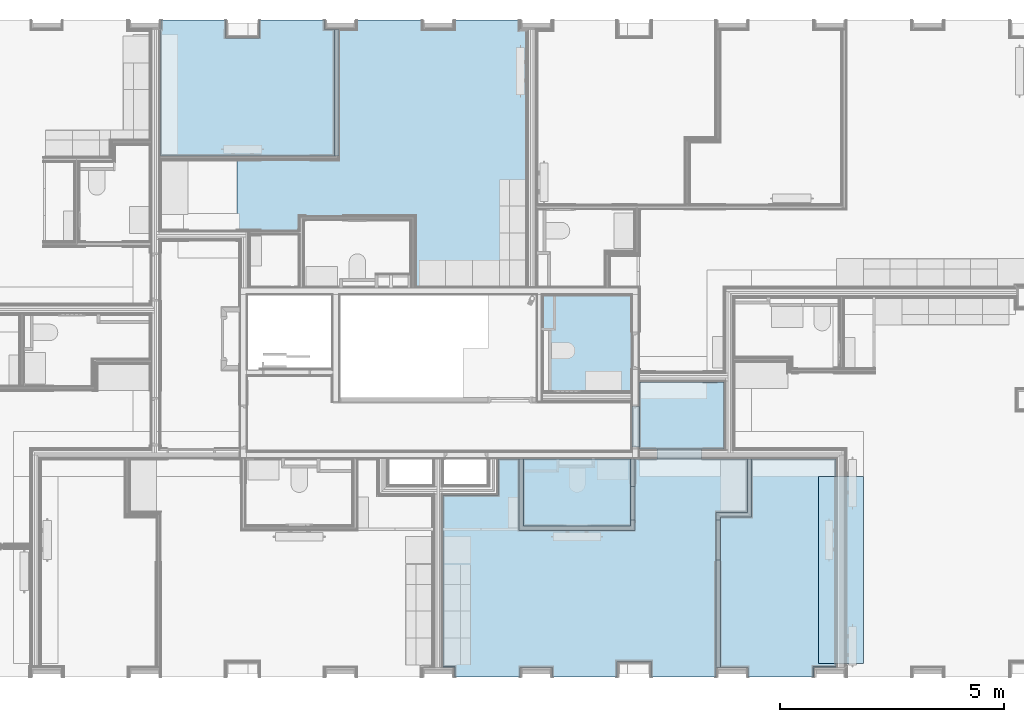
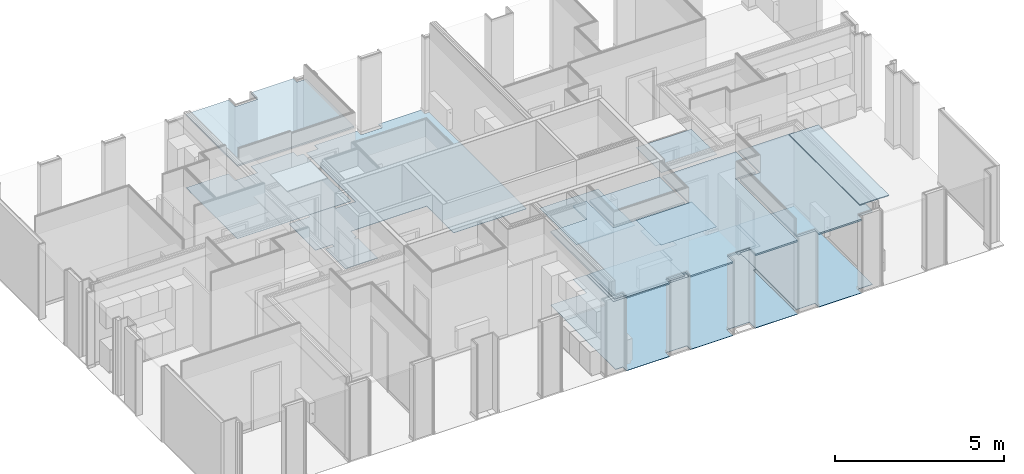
# One storey, part 44 of 64: 20 slabs.
"""IFC2X3 building model written with IfcOpenShell, lengths in metres."""

from ifc_helpers import new_model, entity, si_unit, converted_unit, derived_unit, money_unit, direction, frame, origin_with_axes, place, context, subcontext, project, spatial, faceted_brep, material, type_object, element, save


model = new_model("IFC2X3")

# Units and contexts
model_context = context("Model", 3, precision=1e-05, world=origin_with_axes(), true_north=direction((0.0, 1.0)))
body_context = subcontext(model_context, "Body", "Model", "MODEL_VIEW", scale=1.0)
ifc_project = project(units=[si_unit("LENGTHUNIT", "METRE"), si_unit("AREAUNIT", "SQUARE_METRE"), si_unit("VOLUMEUNIT", "CUBIC_METRE"), si_unit("ABSORBEDDOSEUNIT", "GRAY"), si_unit("AMOUNTOFSUBSTANCEUNIT", "MOLE"), si_unit("DOSEEQUIVALENTUNIT", "SIEVERT"), si_unit("ELECTRICCAPACITANCEUNIT", "FARAD"), si_unit("ELECTRICCHARGEUNIT", "COULOMB"), si_unit("ELECTRICCONDUCTANCEUNIT", "SIEMENS"), si_unit("ELECTRICCURRENTUNIT", "AMPERE"), si_unit("ELECTRICRESISTANCEUNIT", "OHM"), si_unit("ELECTRICVOLTAGEUNIT", "VOLT"), si_unit("ENERGYUNIT", "JOULE"), si_unit("FORCEUNIT", "NEWTON"), si_unit("FREQUENCYUNIT", "HERTZ"), si_unit("ILLUMINANCEUNIT", "LUX"), si_unit("INDUCTANCEUNIT", "HENRY"), si_unit("LUMINOUSFLUXUNIT", "LUMEN"), si_unit("LUMINOUSINTENSITYUNIT", "CANDELA"), si_unit("MAGNETICFLUXDENSITYUNIT", "TESLA"), si_unit("MAGNETICFLUXUNIT", "WEBER"), si_unit("MASSUNIT", "GRAM"), converted_unit("PLANEANGLEUNIT", "degree", entity("IfcReal", 0.0174532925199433), si_unit("PLANEANGLEUNIT", "RADIAN"), dimensions=[0, 0, 0, 0, 0, 0, 0]), si_unit("POWERUNIT", "WATT"), si_unit("PRESSUREUNIT", "PASCAL"), si_unit("RADIOACTIVITYUNIT", "BECQUEREL"), si_unit("SOLIDANGLEUNIT", "STERADIAN"), si_unit("THERMODYNAMICTEMPERATUREUNIT", "KELVIN"), si_unit("TIMEUNIT", "SECOND"), derived_unit("ACCELERATIONUNIT", [(si_unit("LENGTHUNIT", "METRE"), 1), (si_unit("TIMEUNIT", "SECOND"), -2)]), derived_unit("ANGULARVELOCITYUNIT", [(converted_unit("PLANEANGLEUNIT", "degree", entity("IfcReal", 0.0174532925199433), si_unit("PLANEANGLEUNIT", "RADIAN"), dimensions=[0, 0, 0, 0, 0, 0, 0]), 1), (si_unit("TIMEUNIT", "SECOND"), -1)]), derived_unit("CURVATUREUNIT", [(converted_unit("PLANEANGLEUNIT", "degree", entity("IfcReal", 0.0174532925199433), si_unit("PLANEANGLEUNIT", "RADIAN"), dimensions=[0, 0, 0, 0, 0, 0, 0]), 1), (si_unit("LENGTHUNIT", "METRE"), -1)]), derived_unit("DYNAMICVISCOSITYUNIT", [(si_unit("PRESSUREUNIT", "PASCAL"), 1), (si_unit("TIMEUNIT", "SECOND"), 1)]), derived_unit("HEATFLUXDENSITYUNIT", [(si_unit("POWERUNIT", "WATT"), 1), (si_unit("LENGTHUNIT", "METRE"), -2)]), derived_unit("HEATINGVALUEUNIT", [(si_unit("ENERGYUNIT", "JOULE"), 1), (si_unit("MASSUNIT", "GRAM"), -1)]), derived_unit("INTEGERCOUNTRATEUNIT", [(si_unit("TIMEUNIT", "SECOND"), -1)]), derived_unit("IONCONCENTRATIONUNIT", [(si_unit("MASSUNIT", "GRAM"), 1), (si_unit("VOLUMEUNIT", "CUBIC_METRE"), -1)]), derived_unit("ISOTHERMALMOISTURECAPACITYUNIT", [(si_unit("VOLUMEUNIT", "CUBIC_METRE"), 1), (si_unit("MASSUNIT", "GRAM"), -1)]), derived_unit("KINEMATICVISCOSITYUNIT", [(si_unit("AREAUNIT", "SQUARE_METRE"), 1), (si_unit("TIMEUNIT", "SECOND"), -1)]), derived_unit("LINEARFORCEUNIT", [(si_unit("FORCEUNIT", "NEWTON"), 1), (si_unit("LENGTHUNIT", "METRE"), -1)]), derived_unit("LINEARMOMENTUNIT", [(si_unit("FORCEUNIT", "NEWTON"), 1), (si_unit("LENGTHUNIT", "METRE"), -1)]), derived_unit("LINEARSTIFFNESSUNIT", [(si_unit("FORCEUNIT", "NEWTON"), 1), (si_unit("LENGTHUNIT", "METRE"), -1)]), derived_unit("LINEARVELOCITYUNIT", [(si_unit("LENGTHUNIT", "METRE"), 1), (si_unit("TIMEUNIT", "SECOND"), -1)]), derived_unit("LUMINOUSINTENSITYDISTRIBUTIONUNIT", [(si_unit("LUMINOUSINTENSITYUNIT", "CANDELA"), 1), (si_unit("LUMINOUSFLUXUNIT", "LUMEN"), -1)]), derived_unit("MASSDENSITYUNIT", [(si_unit("MASSUNIT", "GRAM"), 1), (si_unit("VOLUMEUNIT", "CUBIC_METRE"), -1)]), derived_unit("MASSFLOWRATEUNIT", [(si_unit("MASSUNIT", "GRAM"), 1), (si_unit("TIMEUNIT", "SECOND"), -1)]), derived_unit("MASSPERLENGTHUNIT", [(si_unit("MASSUNIT", "GRAM"), 1), (si_unit("LENGTHUNIT", "METRE"), -1)]), derived_unit("MODULUSOFELASTICITYUNIT", [(si_unit("FORCEUNIT", "NEWTON"), 1), (si_unit("AREAUNIT", "SQUARE_METRE"), -1)]), derived_unit("MODULUSOFLINEARSUBGRADEREACTIONUNIT", [(si_unit("FORCEUNIT", "NEWTON"), 1), (si_unit("LENGTHUNIT", "METRE"), -2)]), derived_unit("MODULUSOFROTATIONALSUBGRADEREACTIONUNIT", [(si_unit("FORCEUNIT", "NEWTON"), 1), (si_unit("LENGTHUNIT", "METRE"), 1)]), derived_unit("MODULUSOFSUBGRADEREACTIONUNIT", [(si_unit("FORCEUNIT", "NEWTON"), 1), (si_unit("VOLUMEUNIT", "CUBIC_METRE"), -1)]), derived_unit("MOISTUREDIFFUSIVITYUNIT", [(si_unit("VOLUMEUNIT", "CUBIC_METRE"), 1), (si_unit("TIMEUNIT", "SECOND"), -1)]), derived_unit("MOLECULARWEIGHTUNIT", [(si_unit("MASSUNIT", "GRAM"), 1), (si_unit("AMOUNTOFSUBSTANCEUNIT", "MOLE"), -1)]), derived_unit("PLANARFORCEUNIT", [(si_unit("FORCEUNIT", "NEWTON"), 1), (si_unit("LENGTHUNIT", "METRE"), -2)]), derived_unit("ROTATIONALFREQUENCYUNIT", [(si_unit("TIMEUNIT", "SECOND"), -1)]), derived_unit("ROTATIONALMASSUNIT", [(si_unit("MASSUNIT", "GRAM"), 1), (si_unit("LENGTHUNIT", "METRE"), 2)]), derived_unit("ROTATIONALSTIFFNESSUNIT", [(si_unit("FORCEUNIT", "NEWTON"), 1), (si_unit("LENGTHUNIT", "METRE"), 1), (converted_unit("PLANEANGLEUNIT", "degree", entity("IfcReal", 0.0174532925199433), si_unit("PLANEANGLEUNIT", "RADIAN"), dimensions=[0, 0, 0, 0, 0, 0, 0]), -1)]), derived_unit("SECTIONAREAINTEGRALUNIT", [(si_unit("LENGTHUNIT", "METRE"), 5)]), derived_unit("SECTIONMODULUSUNIT", [(si_unit("LENGTHUNIT", "METRE"), 3)]), derived_unit("SHEARMODULUSUNIT", [(si_unit("FORCEUNIT", "NEWTON"), 1), (si_unit("AREAUNIT", "SQUARE_METRE"), -1)]), derived_unit("SOUNDPOWERUNIT", [(si_unit("ENERGYUNIT", "JOULE"), 1), (si_unit("TIMEUNIT", "SECOND"), -1)]), derived_unit("SPECIFICHEATCAPACITYUNIT", [(si_unit("FORCEUNIT", "NEWTON"), 1), (si_unit("MASSUNIT", "GRAM"), -1), (si_unit("THERMODYNAMICTEMPERATUREUNIT", "KELVIN"), -1)]), derived_unit("TEMPERATUREGRADIENTUNIT", [(si_unit("THERMODYNAMICTEMPERATUREUNIT", "KELVIN"), 1), (si_unit("LENGTHUNIT", "METRE"), -1)]), derived_unit("THERMALADMITTANCEUNIT", [(si_unit("POWERUNIT", "WATT"), 1), (si_unit("AREAUNIT", "SQUARE_METRE"), -1), (si_unit("THERMODYNAMICTEMPERATUREUNIT", "KELVIN"), -1)]), derived_unit("THERMALCONDUCTANCEUNIT", [(si_unit("POWERUNIT", "WATT"), 1), (si_unit("LENGTHUNIT", "METRE"), -1), (si_unit("THERMODYNAMICTEMPERATUREUNIT", "KELVIN"), -1)]), derived_unit("THERMALEXPANSIONCOEFFICIENTUNIT", [(si_unit("THERMODYNAMICTEMPERATUREUNIT", "KELVIN"), -1)]), derived_unit("THERMALRESISTANCEUNIT", [(si_unit("AREAUNIT", "SQUARE_METRE"), 1), (si_unit("POWERUNIT", "WATT"), -1)]), derived_unit("THERMALTRANSMITTANCEUNIT", [(si_unit("POWERUNIT", "WATT"), 1), (si_unit("AREAUNIT", "SQUARE_METRE"), -1), (si_unit("THERMODYNAMICTEMPERATUREUNIT", "KELVIN"), -1)]), derived_unit("TORQUEUNIT", [(si_unit("FORCEUNIT", "NEWTON"), 1), (si_unit("LENGTHUNIT", "METRE"), 1)]), derived_unit("VAPORPERMEABILITYUNIT", [(si_unit("MASSUNIT", "GRAM"), 1), (si_unit("TIMEUNIT", "SECOND"), -1)]), derived_unit("VOLUMETRICFLOWRATEUNIT", [(si_unit("VOLUMEUNIT", "CUBIC_METRE"), 1), (si_unit("TIMEUNIT", "SECOND"), -1)]), derived_unit("WARPINGCONSTANTUNIT", [(si_unit("LENGTHUNIT", "METRE"), 6)]), derived_unit("WARPINGMOMENTUNIT", [(si_unit("FORCEUNIT", "NEWTON"), 1), (si_unit("LENGTHUNIT", "METRE"), 2)]), money_unit("GBP")], contexts=[model_context])

# Site, building, storey
site_placement = place(None, origin_with_axes())
site = spatial("IfcSite", under=ifc_project, at=site_placement, Name="Site", CompositionType="ELEMENT")
building_placement = place(site_placement, origin_with_axes())
building = spatial("IfcBuilding", under=site, at=building_placement, Name="Building01", CompositionType="ELEMENT")
storey_placement = place(building_placement, frame((0.0, 0.0, 8.64), z_axis=(0.0, 0.0, 1.0), x_axis=(1.0, 0.0, 0.0)))
storey = spatial("IfcBuildingStorey", under=building, at=storey_placement, Name="2F", CompositionType="ELEMENT", Elevation=8.64)

# Slabs
ifc_material_1 = material(Name="A_BSUK_CeilingSoffitFinishes_Suspended")
slab_type_1 = type_object("IfcSlabType", Name="A-FloorsSlabs A_BSUK_Slabs", PredefinedType="FLOOR")
placement = place(storey_placement, frame((0.0, 0.0, -8.64), z_axis=(0.0, 0.0, 1.0), x_axis=(1.0, 0.0, 0.0)))
element("IfcSlab", 1, at=placement, inside=storey, type_object=slab_type_1, material=ifc_material_1, Name="A-FloorsSlabs A_BSUK_Slabs", ObjectType="CompoundSlabLeaf", context=body_context, shape_type="Brep", body=[
    faceted_brep([(18.0, 6.705, 11.255), (18.0, 6.705, 11.27), (19.897661, 6.705, 11.27), (19.897661, 6.705, 11.255), (18.0, 5.205, 11.255), (18.0, 5.205, 11.27), (19.897661, 5.205, 11.255), (19.897661, 5.205, 11.27)], [[[0, 1, 2, 3]], [[4, 5, 1, 0]], [[6, 7, 5, 4]], [[3, 2, 7, 6]], [[1, 5, 7, 2]], [[3, 6, 4, 0]]]),
])
ifc_material_2 = material(Name="A_BSUK_ExpandedPolystyreneBoards")
element("IfcSlab", 2, at=placement, inside=storey, type_object=slab_type_1, material=ifc_material_2, Name="A-FloorsSlabs A_BSUK_Slabs", ObjectType="CompoundSlabLeaf", context=body_context, shape_type="Brep", body=[
    faceted_brep([(18.0, 6.69, 8.64), (18.0, 6.69, 8.643), (19.897661, 6.69, 8.643), (19.897661, 6.69, 8.64), (18.0, 5.205, 8.64), (18.0, 5.205, 8.643), (19.897661, 5.205, 8.64), (19.897661, 5.205, 8.643)], [[[0, 1, 2, 3]], [[4, 5, 1, 0]], [[6, 7, 5, 4]], [[3, 2, 7, 6]], [[1, 5, 7, 2]], [[3, 6, 4, 0]]]),
])
element("IfcSlab", 3, at=placement, inside=storey, type_object=slab_type_1, material=ifc_material_2, Name="A-FloorsSlabs A_BSUK_Slabs", ObjectType="CompoundSlabLeaf", context=body_context, shape_type="Brep", body=[
    faceted_brep([(14.85, 4.164428, 8.64), (14.85, 4.164428, 8.643), (14.85, 4.98, 8.643), (14.85, 4.98, 8.64), (13.6125, 4.164428, 8.64), (13.6125, 4.164428, 8.643), (13.6125, 0.318, 8.64), (13.6125, 0.318, 8.643), (13.865, 0.318, 8.64), (13.865, 0.318, 8.643), (13.865, 0.1, 8.64), (13.865, 0.1, 8.643), (15.335, 0.1, 8.64), (15.335, 0.1, 8.643), (15.335, 0.318, 8.64), (15.335, 0.318, 8.643), (16.055, 0.318, 8.64), (16.055, 0.318, 8.643), (16.055, 0.1, 8.64), (16.055, 0.1, 8.643), (17.502, 0.1, 8.64), (17.502, 0.1, 8.643), (17.502, 0.448, 8.64), (17.502, 0.448, 8.643), (18.268, 0.448, 8.64), (18.268, 0.448, 8.643), (18.268, 0.1, 8.64), (18.268, 0.1, 8.643), (19.715, 0.1, 8.64), (19.715, 0.1, 8.643), (19.715, 0.318, 8.64), (19.715, 0.318, 8.643), (20.435, 0.318, 8.64), (20.435, 0.318, 8.643), (20.435, 0.1, 8.64), (20.435, 0.1, 8.643), (21.905, 0.1, 8.64), (21.905, 0.1, 8.643), (21.905, 0.318, 8.64), (21.905, 0.318, 8.643), (22.4, 0.318, 8.64), (22.4, 0.318, 8.643), (22.4, 4.98, 8.64), (22.4, 4.98, 8.643), (19.392, 4.98, 8.64), (19.392, 4.98, 8.643), (19.392, 5.205, 8.64), (19.392, 5.205, 8.643), (18.392, 5.205, 8.64), (18.392, 5.205, 8.643), (18.392, 4.98, 8.64), (18.392, 4.98, 8.643), (18.0, 4.98, 8.64), (18.0, 4.98, 8.643)], [[[0, 1, 2, 3]], [[4, 5, 1, 0]], [[6, 7, 5, 4]], [[8, 9, 7, 6]], [[10, 11, 9, 8]], [[12, 13, 11, 10]], [[14, 15, 13, 12]], [[16, 17, 15, 14]], [[18, 19, 17, 16]], [[20, 21, 19, 18]], [[22, 23, 21, 20]], [[24, 25, 23, 22]], [[26, 27, 25, 24]], [[28, 29, 27, 26]], [[30, 31, 29, 28]], [[32, 33, 31, 30]], [[34, 35, 33, 32]], [[36, 37, 35, 34]], [[38, 39, 37, 36]], [[40, 41, 39, 38]], [[42, 43, 41, 40]], [[44, 45, 43, 42]], [[46, 47, 45, 44]], [[48, 49, 47, 46]], [[50, 51, 49, 48]], [[52, 53, 51, 50]], [[3, 2, 53, 52]], [[1, 5, 7, 9, 11, 13, 15, 17, 19, 21, 23, 25, 27, 29, 31, 33, 35, 37, 39, 41, 43, 45, 47, 49, 51, 53, 2]], [[3, 52, 50, 48, 46, 44, 42, 40, 38, 36, 34, 32, 30, 28, 26, 24, 22, 20, 18, 16, 14, 12, 10, 8, 6, 4, 0]]]),
])
ifc_material_3 = material(Name="A_BSUK_Parquet_Floor")
element("IfcSlab", 4, at=placement, inside=storey, type_object=slab_type_1, material=ifc_material_3, Name="A-FloorsSlabs A_BSUK_Slabs", ObjectType="CompoundSlabLeaf", context=body_context, shape_type="Brep", body=[
    faceted_brep([(9.285, 9.200704, 8.643), (9.285, 9.200704, 8.655), (9.285, 9.992662, 8.655), (9.285, 9.992662, 8.643), (9.285, 8.82, 8.643), (9.285, 8.82, 8.655), (10.393585, 8.82, 8.643), (10.393585, 8.82, 8.655), (10.393585, 9.992704, 8.643), (10.393585, 9.992704, 8.655), (10.324871, 9.992704, 8.643), (10.324871, 9.992704, 8.655), (10.324871, 10.087704, 8.643), (10.324871, 10.087704, 8.655), (10.393871, 10.087704, 8.643), (10.393871, 10.087704, 8.655), (10.393871, 10.415, 8.643), (10.393871, 10.415, 8.655), (12.988585, 10.415, 8.643), (12.988585, 10.415, 8.655), (12.988585, 8.82, 8.643), (12.988585, 8.82, 8.655), (15.483132, 8.82, 8.643), (15.483132, 8.82, 8.655), (15.483132, 14.582, 8.643), (15.483132, 14.582, 8.655), (15.335, 14.582, 8.643), (15.335, 14.582, 8.655), (15.335, 14.8, 8.643), (15.335, 14.8, 8.655), (13.865, 14.8, 8.643), (13.865, 14.8, 8.655), (13.865, 14.582, 8.643), (13.865, 14.582, 8.655), (13.145, 14.582, 8.643), (13.145, 14.582, 8.655), (13.145, 14.8, 8.643), (13.145, 14.8, 8.655), (11.675, 14.8, 8.643), (11.675, 14.8, 8.655), (11.675, 14.582, 8.643), (11.675, 14.582, 8.655), (11.275, 14.582, 8.643), (11.275, 14.582, 8.655), (11.275, 11.668124, 8.643), (11.275, 11.668124, 8.655), (10.611, 11.668124, 8.643), (10.611, 11.668124, 8.655), (10.611, 11.763124, 8.643), (10.611, 11.763124, 8.655), (9.711, 11.763124, 8.643), (9.711, 11.763124, 8.655), (9.711, 11.668124, 8.643), (9.711, 11.668124, 8.655), (8.995, 11.668124, 8.643), (8.995, 11.668124, 8.655), (8.995, 10.087704, 8.643), (8.995, 10.087704, 8.655), (9.09, 10.087704, 8.643), (9.09, 10.087704, 8.655), (9.574871, 10.087704, 8.643), (9.574871, 10.087704, 8.655), (9.574871, 9.992704, 8.643), (9.574871, 9.992704, 8.655)], [[[0, 1, 2, 3]], [[4, 5, 1, 0]], [[6, 7, 5, 4]], [[8, 9, 7, 6]], [[10, 11, 9, 8]], [[12, 13, 11, 10]], [[14, 15, 13, 12]], [[16, 17, 15, 14]], [[18, 19, 17, 16]], [[20, 21, 19, 18]], [[22, 23, 21, 20]], [[24, 25, 23, 22]], [[26, 27, 25, 24]], [[28, 29, 27, 26]], [[30, 31, 29, 28]], [[32, 33, 31, 30]], [[34, 35, 33, 32]], [[36, 37, 35, 34]], [[38, 39, 37, 36]], [[40, 41, 39, 38]], [[42, 43, 41, 40]], [[44, 45, 43, 42]], [[46, 47, 45, 44]], [[48, 49, 47, 46]], [[50, 51, 49, 48]], [[52, 53, 51, 50]], [[54, 55, 53, 52]], [[56, 57, 55, 54]], [[58, 59, 57, 56]], [[60, 61, 59, 58]], [[62, 63, 61, 60]], [[3, 2, 63, 62]], [[1, 5, 7, 9, 11, 13, 15, 17, 19, 21, 23, 25, 27, 29, 31, 33, 35, 37, 39, 41, 43, 45, 47, 49, 51, 53, 55, 57, 59, 61, 63, 2]], [[3, 62, 60, 58, 56, 54, 52, 50, 48, 46, 44, 42, 40, 38, 36, 34, 32, 30, 28, 26, 24, 22, 20, 18, 16, 14, 12, 10, 8, 6, 4, 0]]]),
])
ifc_material_4 = material(Name="A_BSUK_Carpet-Pile")
element("IfcSlab", 5, at=placement, inside=storey, type_object=slab_type_1, material=ifc_material_4, Name="A-FloorsSlabs A_BSUK_Slabs", ObjectType="CompoundSlabLeaf", context=body_context, shape_type="Brep", body=[
    faceted_brep([(7.289669, 11.763124, 8.643), (7.289669, 11.763124, 8.655), (7.289669, 14.582, 8.655), (7.289669, 14.582, 8.643), (8.995, 11.763124, 8.643), (8.995, 11.763124, 8.655), (11.18, 11.763124, 8.643), (11.18, 11.763124, 8.655), (11.18, 14.582, 8.643), (11.18, 14.582, 8.655), (10.955, 14.582, 8.643), (10.955, 14.582, 8.655), (10.955, 14.8, 8.643), (10.955, 14.8, 8.655), (9.508, 14.8, 8.643), (9.508, 14.8, 8.655), (9.508, 14.402, 8.643), (9.508, 14.402, 8.655), (8.742, 14.402, 8.643), (8.742, 14.402, 8.655), (8.742, 14.8, 8.643), (8.742, 14.8, 8.655), (7.295, 14.8, 8.643), (7.295, 14.8, 8.655), (7.295, 14.582, 8.643), (7.295, 14.582, 8.655)], [[[0, 1, 2, 3]], [[4, 5, 1, 0]], [[6, 7, 5, 4]], [[8, 9, 7, 6]], [[10, 11, 9, 8]], [[12, 13, 11, 10]], [[14, 15, 13, 12]], [[16, 17, 15, 14]], [[18, 19, 17, 16]], [[20, 21, 19, 18]], [[22, 23, 21, 20]], [[24, 25, 23, 22]], [[3, 2, 25, 24]], [[1, 5, 7, 9, 11, 13, 15, 17, 19, 21, 23, 25, 2]], [[3, 24, 22, 20, 18, 16, 14, 12, 10, 8, 6, 4, 0]]]),
])
ifc_material_5 = material(Name="A_BSUK_Ceramic_FloorTiles")
element("IfcSlab", 6, at=placement, inside=storey, type_object=slab_type_1, material=ifc_material_5, Name="A-FloorsSlabs A_BSUK_Slabs", ObjectType="CompoundSlabLeaf", context=body_context, shape_type="Brep", body=[
    faceted_brep([(15.83, 6.475, 8.643), (15.83, 6.475, 8.655), (15.83, 8.65, 8.655), (15.83, 8.65, 8.643), (17.83, 6.475, 8.643), (17.83, 6.475, 8.655), (17.83, 8.65, 8.643), (17.83, 8.65, 8.655)], [[[0, 1, 2, 3]], [[4, 5, 1, 0]], [[6, 7, 5, 4]], [[3, 2, 7, 6]], [[1, 5, 7, 2]], [[3, 6, 4, 0]]]),
])
element("IfcSlab", 7, at=placement, inside=storey, type_object=slab_type_1, material=ifc_material_3, Name="A-FloorsSlabs A_BSUK_Slabs", ObjectType="CompoundSlabLeaf", context=body_context, shape_type="Brep", body=[
    faceted_brep([(18.392, 4.98, 8.643), (18.392, 4.98, 8.655), (18.392, 5.205, 8.655), (18.392, 5.205, 8.643), (17.9025, 4.98, 8.643), (17.9025, 4.98, 8.655), (17.9025, 4.363781, 8.643), (17.9025, 4.363781, 8.655), (17.8075, 4.363781, 8.643), (17.8075, 4.363781, 8.655), (17.8075, 3.613781, 8.643), (17.8075, 3.613781, 8.655), (17.9025, 3.613781, 8.643), (17.9025, 3.613781, 8.655), (17.9025, 3.385, 8.643), (17.9025, 3.385, 8.655), (15.3125, 3.385, 8.643), (15.3125, 3.385, 8.655), (15.3125, 4.98, 8.643), (15.3125, 4.98, 8.655), (14.85, 4.98, 8.643), (14.85, 4.98, 8.655), (14.85, 4.164428, 8.643), (14.85, 4.164428, 8.655), (13.6125, 4.164428, 8.643), (13.6125, 4.164428, 8.655), (13.6125, 0.318, 8.643), (13.6125, 0.318, 8.655), (13.865, 0.318, 8.643), (13.865, 0.318, 8.655), (13.865, 0.1, 8.643), (13.865, 0.1, 8.655), (15.335, 0.1, 8.643), (15.335, 0.1, 8.655), (15.335, 0.318, 8.643), (15.335, 0.318, 8.655), (16.055, 0.318, 8.643), (16.055, 0.318, 8.655), (16.055, 0.1, 8.643), (16.055, 0.1, 8.655), (17.502, 0.1, 8.643), (17.502, 0.1, 8.655), (17.502, 0.448, 8.643), (17.502, 0.448, 8.655), (18.268, 0.448, 8.643), (18.268, 0.448, 8.655), (18.268, 0.1, 8.643), (18.268, 0.1, 8.655), (19.715, 0.1, 8.643), (19.715, 0.1, 8.655), (19.715, 2.716, 8.643), (19.715, 2.716, 8.655), (19.81, 2.716, 8.643), (19.81, 2.716, 8.655), (19.81, 3.616, 8.643), (19.81, 3.616, 8.655), (19.715, 3.616, 8.643), (19.715, 3.616, 8.655), (19.715, 3.78, 8.643), (19.715, 3.78, 8.655), (20.415, 3.78, 8.643), (20.415, 3.78, 8.655), (20.415, 4.98, 8.643), (20.415, 4.98, 8.655), (19.392, 4.98, 8.643), (19.392, 4.98, 8.655), (19.392, 5.205, 8.643), (19.392, 5.205, 8.655)], [[[0, 1, 2, 3]], [[4, 5, 1, 0]], [[6, 7, 5, 4]], [[8, 9, 7, 6]], [[10, 11, 9, 8]], [[12, 13, 11, 10]], [[14, 15, 13, 12]], [[16, 17, 15, 14]], [[18, 19, 17, 16]], [[20, 21, 19, 18]], [[22, 23, 21, 20]], [[24, 25, 23, 22]], [[26, 27, 25, 24]], [[28, 29, 27, 26]], [[30, 31, 29, 28]], [[32, 33, 31, 30]], [[34, 35, 33, 32]], [[36, 37, 35, 34]], [[38, 39, 37, 36]], [[40, 41, 39, 38]], [[42, 43, 41, 40]], [[44, 45, 43, 42]], [[46, 47, 45, 44]], [[48, 49, 47, 46]], [[50, 51, 49, 48]], [[52, 53, 51, 50]], [[54, 55, 53, 52]], [[56, 57, 55, 54]], [[58, 59, 57, 56]], [[60, 61, 59, 58]], [[62, 63, 61, 60]], [[64, 65, 63, 62]], [[66, 67, 65, 64]], [[3, 2, 67, 66]], [[1, 5, 7, 9, 11, 13, 15, 17, 19, 21, 23, 25, 27, 29, 31, 33, 35, 37, 39, 41, 43, 45, 47, 49, 51, 53, 55, 57, 59, 61, 63, 65, 67, 2]], [[3, 66, 64, 62, 60, 58, 56, 54, 52, 50, 48, 46, 44, 42, 40, 38, 36, 34, 32, 30, 28, 26, 24, 22, 20, 18, 16, 14, 12, 10, 8, 6, 4, 0]]]),
])
element("IfcSlab", 8, at=placement, inside=storey, type_object=slab_type_1, material=ifc_material_5, Name="A-FloorsSlabs A_BSUK_Slabs", ObjectType="CompoundSlabLeaf", context=body_context, shape_type="Brep", body=[
    faceted_brep([(15.4075, 4.98, 8.643), (15.4075, 4.98, 8.655), (17.8075, 4.98, 8.655), (17.8075, 4.98, 8.643), (15.4075, 4.259428, 8.643), (15.4075, 4.259428, 8.655), (15.4075, 3.48, 8.643), (15.4075, 3.48, 8.655), (17.8075, 3.48, 8.643), (17.8075, 3.48, 8.655)], [[[0, 1, 2, 3]], [[4, 5, 1, 0]], [[6, 7, 5, 4]], [[8, 9, 7, 6]], [[3, 2, 9, 8]], [[1, 5, 7, 9, 2]], [[3, 8, 6, 4, 0]]]),
])
element("IfcSlab", 9, at=placement, inside=storey, type_object=slab_type_1, material=ifc_material_4, Name="A-FloorsSlabs A_BSUK_Slabs", ObjectType="CompoundSlabLeaf", context=body_context, shape_type="Brep", body=[
    faceted_brep([(20.51, 4.98, 8.643), (20.51, 4.98, 8.655), (22.4, 4.98, 8.655), (22.4, 4.98, 8.643), (20.51, 3.685, 8.643), (20.51, 3.685, 8.655), (19.81, 3.685, 8.643), (19.81, 3.685, 8.655), (19.81, 0.318, 8.643), (19.81, 0.318, 8.655), (20.435, 0.318, 8.643), (20.435, 0.318, 8.655), (20.435, 0.1, 8.643), (20.435, 0.1, 8.655), (21.905, 0.1, 8.643), (21.905, 0.1, 8.655), (21.905, 0.318, 8.643), (21.905, 0.318, 8.655), (22.4, 0.318, 8.643), (22.4, 0.318, 8.655)], [[[0, 1, 2, 3]], [[4, 5, 1, 0]], [[6, 7, 5, 4]], [[8, 9, 7, 6]], [[10, 11, 9, 8]], [[12, 13, 11, 10]], [[14, 15, 13, 12]], [[16, 17, 15, 14]], [[18, 19, 17, 16]], [[3, 2, 19, 18]], [[1, 5, 7, 9, 11, 13, 15, 17, 19, 2]], [[3, 18, 16, 14, 12, 10, 8, 6, 4, 0]]]),
])
element("IfcSlab", 10, at=placement, inside=storey, type_object=slab_type_1, material=ifc_material_4, Name="A-FloorsSlabs A_BSUK_Slabs", ObjectType="CompoundSlabLeaf", context=body_context, shape_type="Brep", body=[
    faceted_brep([(18.0, 6.705, 8.643), (18.0, 6.705, 8.655), (19.897661, 6.705, 8.655), (19.897661, 6.705, 8.643), (18.0, 6.15, 8.643), (18.0, 6.15, 8.655), (17.83, 6.15, 8.643), (17.83, 6.15, 8.655), (17.83, 5.25, 8.643), (17.83, 5.25, 8.655), (18.0, 5.25, 8.643), (18.0, 5.25, 8.655), (18.0, 5.205, 8.643), (18.0, 5.205, 8.655), (19.897661, 5.205, 8.643), (19.897661, 5.205, 8.655)], [[[0, 1, 2, 3]], [[4, 5, 1, 0]], [[6, 7, 5, 4]], [[8, 9, 7, 6]], [[10, 11, 9, 8]], [[12, 13, 11, 10]], [[14, 15, 13, 12]], [[3, 2, 15, 14]], [[1, 5, 7, 9, 11, 13, 15, 2]], [[3, 14, 12, 10, 8, 6, 4, 0]]]),
])
element("IfcSlab", 11, at=placement, inside=storey, type_object=slab_type_1, material=ifc_material_1, Name="A-FloorsSlabs A_BSUK_Slabs", ObjectType="CompoundSlabLeaf", context=body_context, shape_type="Brep", body=[
    faceted_brep([(7.289669, 12.013124, 11.255), (7.289669, 12.013124, 11.27), (7.289669, 14.567, 11.27), (7.289669, 14.567, 11.255), (7.289669, 11.763124, 11.255), (7.289669, 11.763124, 11.27), (11.18, 11.763124, 11.255), (11.18, 11.763124, 11.27), (11.18, 14.582, 11.255), (11.18, 14.582, 11.27), (10.955, 14.582, 11.255), (10.955, 14.582, 11.27), (10.955, 14.8, 11.255), (10.955, 14.8, 11.27), (9.508, 14.8, 11.255), (9.508, 14.8, 11.27), (9.508, 14.402, 11.255), (9.508, 14.402, 11.27), (8.742, 14.402, 11.255), (8.742, 14.402, 11.27), (8.742, 14.8, 11.255), (8.742, 14.8, 11.27), (7.31, 14.8, 11.255), (7.31, 14.8, 11.27), (7.31, 14.567, 11.255), (7.31, 14.567, 11.27)], [[[0, 1, 2, 3]], [[4, 5, 1, 0]], [[6, 7, 5, 4]], [[8, 9, 7, 6]], [[10, 11, 9, 8]], [[12, 13, 11, 10]], [[14, 15, 13, 12]], [[16, 17, 15, 14]], [[18, 19, 17, 16]], [[20, 21, 19, 18]], [[22, 23, 21, 20]], [[24, 25, 23, 22]], [[3, 2, 25, 24]], [[1, 5, 7, 9, 11, 13, 15, 17, 19, 21, 23, 25, 2]], [[3, 24, 22, 20, 18, 16, 14, 12, 10, 8, 6, 4, 0]]]),
])
element("IfcSlab", 12, at=placement, inside=storey, type_object=slab_type_1, material=ifc_material_1, Name="A-FloorsSlabs A_BSUK_Slabs", ObjectType="CompoundSlabLeaf", context=body_context, shape_type="Brep", body=[
    faceted_brep([(17.9025, 4.98, 11.255), (17.9025, 4.98, 11.27), (18.395, 4.98, 11.27), (18.395, 4.98, 11.255), (17.9025, 4.232781, 11.255), (17.9025, 4.232781, 11.27), (17.9025, 3.385, 11.255), (17.9025, 3.385, 11.27), (15.3125, 3.385, 11.255), (15.3125, 3.385, 11.27), (15.3125, 4.98, 11.255), (15.3125, 4.98, 11.27), (14.85, 4.98, 11.255), (14.85, 4.98, 11.27), (14.85, 4.164428, 11.255), (14.85, 4.164428, 11.27), (13.6125, 4.164428, 11.255), (13.6125, 4.164428, 11.27), (13.6125, 0.333, 11.255), (13.6125, 0.333, 11.27), (13.880124, 0.333, 11.255), (13.880124, 0.333, 11.27), (13.880124, 0.1, 11.255), (13.880124, 0.1, 11.27), (15.335, 0.1, 11.255), (15.335, 0.1, 11.27), (15.335, 0.318, 11.255), (15.335, 0.318, 11.27), (16.055, 0.318, 11.255), (16.055, 0.318, 11.27), (16.055, 0.1, 11.255), (16.055, 0.1, 11.27), (17.502, 0.1, 11.255), (17.502, 0.1, 11.27), (17.502, 0.448, 11.255), (17.502, 0.448, 11.27), (18.268, 0.448, 11.255), (18.268, 0.448, 11.27), (18.268, 0.1, 11.255), (18.268, 0.1, 11.27), (19.715, 0.1, 11.255), (19.715, 0.1, 11.27), (19.715, 3.151781, 11.255), (19.715, 3.151781, 11.27), (19.715, 3.78, 11.255), (19.715, 3.78, 11.27), (20.415, 3.78, 11.255), (20.415, 3.78, 11.27), (20.415, 4.98, 11.255), (20.415, 4.98, 11.27), (19.395, 4.98, 11.255), (19.395, 4.98, 11.27)], [[[0, 1, 2, 3]], [[4, 5, 1, 0]], [[6, 7, 5, 4]], [[8, 9, 7, 6]], [[10, 11, 9, 8]], [[12, 13, 11, 10]], [[14, 15, 13, 12]], [[16, 17, 15, 14]], [[18, 19, 17, 16]], [[20, 21, 19, 18]], [[22, 23, 21, 20]], [[24, 25, 23, 22]], [[26, 27, 25, 24]], [[28, 29, 27, 26]], [[30, 31, 29, 28]], [[32, 33, 31, 30]], [[34, 35, 33, 32]], [[36, 37, 35, 34]], [[38, 39, 37, 36]], [[40, 41, 39, 38]], [[42, 43, 41, 40]], [[44, 45, 43, 42]], [[46, 47, 45, 44]], [[48, 49, 47, 46]], [[50, 51, 49, 48]], [[3, 2, 51, 50]], [[1, 5, 7, 9, 11, 13, 15, 17, 19, 21, 23, 25, 27, 29, 31, 33, 35, 37, 39, 41, 43, 45, 47, 49, 51, 2]], [[3, 50, 48, 46, 44, 42, 40, 38, 36, 34, 32, 30, 28, 26, 24, 22, 20, 18, 16, 14, 12, 10, 8, 6, 4, 0]]]),
])
element("IfcSlab", 13, at=placement, inside=storey, type_object=slab_type_1, material=ifc_material_1, Name="A-FloorsSlabs A_BSUK_Slabs", ObjectType="CompoundSlabLeaf", context=body_context, shape_type="Brep", body=[
    faceted_brep([(15.4075, 4.98, 11.255), (15.4075, 4.98, 11.27), (17.8075, 4.98, 11.27), (17.8075, 4.98, 11.255), (15.4075, 4.259428, 11.255), (15.4075, 4.259428, 11.27), (15.4075, 3.48, 11.255), (15.4075, 3.48, 11.27), (17.8075, 3.48, 11.255), (17.8075, 3.48, 11.27)], [[[0, 1, 2, 3]], [[4, 5, 1, 0]], [[6, 7, 5, 4]], [[8, 9, 7, 6]], [[3, 2, 9, 8]], [[1, 5, 7, 9, 2]], [[3, 8, 6, 4, 0]]]),
])
element("IfcSlab", 14, at=placement, inside=storey, type_object=slab_type_1, material=ifc_material_1, Name="A-FloorsSlabs A_BSUK_Slabs", ObjectType="CompoundSlabLeaf", context=body_context, shape_type="Brep", body=[
    faceted_brep([(20.51, 4.98, 11.255), (20.51, 4.98, 11.27), (22.4, 4.98, 11.27), (22.4, 4.98, 11.255), (20.51, 3.685, 11.255), (20.51, 3.685, 11.27), (19.81, 3.685, 11.255), (19.81, 3.685, 11.27), (19.81, 0.318, 11.255), (19.81, 0.318, 11.27), (20.435, 0.318, 11.255), (20.435, 0.318, 11.27), (20.435, 0.1, 11.255), (20.435, 0.1, 11.27), (21.89, 0.1, 11.255), (21.89, 0.1, 11.27), (21.89, 0.333, 11.255), (21.89, 0.333, 11.27), (22.4, 0.333, 11.255), (22.4, 0.333, 11.27)], [[[0, 1, 2, 3]], [[4, 5, 1, 0]], [[6, 7, 5, 4]], [[8, 9, 7, 6]], [[10, 11, 9, 8]], [[12, 13, 11, 10]], [[14, 15, 13, 12]], [[16, 17, 15, 14]], [[18, 19, 17, 16]], [[3, 2, 19, 18]], [[1, 5, 7, 9, 11, 13, 15, 17, 19, 2]], [[3, 18, 16, 14, 12, 10, 8, 6, 4, 0]]]),
])
element("IfcSlab", 15, at=placement, inside=storey, type_object=slab_type_1, material=ifc_material_1, Name="A-FloorsSlabs A_BSUK_Slabs", ObjectType="CompoundSlabLeaf", context=body_context, shape_type="Brep", body=[
    faceted_brep([(22.0125, 0.4, 11.605), (22.0125, 0.4, 11.62), (22.0125, 4.593, 11.62), (22.0125, 4.593, 11.605), (23.0125, 0.4, 11.605), (23.0125, 0.4, 11.62), (23.0125, 4.593, 11.605), (23.0125, 4.593, 11.62)], [[[0, 1, 2, 3]], [[4, 5, 1, 0]], [[6, 7, 5, 4]], [[3, 2, 7, 6]], [[1, 5, 7, 2]], [[3, 6, 4, 0]]]),
])
element("IfcSlab", 16, at=placement, inside=storey, type_object=slab_type_1, material=ifc_material_1, Name="A-FloorsSlabs A_BSUK_Slabs", ObjectType="CompoundSlabLeaf", context=body_context, shape_type="Brep", body=[
    faceted_brep([(22.0125, 0.4, 11.59), (22.0125, 0.4, 11.605), (22.0125, 4.593, 11.605), (22.0125, 4.593, 11.59), (23.0125, 0.4, 11.59), (23.0125, 0.4, 11.605), (23.0125, 4.593, 11.59), (23.0125, 4.593, 11.605)], [[[0, 1, 2, 3]], [[4, 5, 1, 0]], [[6, 7, 5, 4]], [[3, 2, 7, 6]], [[1, 5, 7, 2]], [[3, 6, 4, 0]]]),
])
slab_type_2 = type_object("IfcSlabType", Name="A-FloorsSlabs A_BSUK_ExpandedPolystyreneBoards", PredefinedType="FLOOR")
element("IfcSlab", 17, at=placement, inside=storey, type_object=slab_type_2, material=ifc_material_2, Name="A-FloorsSlabs A_BSUK_ExpandedPolystyreneBoards", ObjectType="CompoundSlabLeaf", context=body_context, shape_type="Brep", body=[
    faceted_brep([(7.289669, 12.013124, 11.27), (7.289669, 12.013124, 11.32), (7.289669, 14.582, 11.32), (7.289669, 14.582, 11.27), (7.289669, 11.763124, 11.27), (7.289669, 11.763124, 11.32), (11.28, 11.763124, 11.27), (11.28, 11.763124, 11.32), (11.28, 14.582, 11.27), (11.28, 14.582, 11.32), (10.955, 14.582, 11.27), (10.955, 14.582, 11.32), (10.955, 14.8, 11.27), (10.955, 14.8, 11.32), (9.508, 14.8, 11.27), (9.508, 14.8, 11.32), (9.508, 14.402, 11.27), (9.508, 14.402, 11.32), (8.742, 14.402, 11.27), (8.742, 14.402, 11.32), (8.742, 14.8, 11.27), (8.742, 14.8, 11.32), (7.295, 14.8, 11.27), (7.295, 14.8, 11.32), (7.295, 14.582, 11.27), (7.295, 14.582, 11.32)], [[[0, 1, 2, 3]], [[4, 5, 1, 0]], [[6, 7, 5, 4]], [[8, 9, 7, 6]], [[10, 11, 9, 8]], [[12, 13, 11, 10]], [[14, 15, 13, 12]], [[16, 17, 15, 14]], [[18, 19, 17, 16]], [[20, 21, 19, 18]], [[22, 23, 21, 20]], [[24, 25, 23, 22]], [[3, 2, 25, 24]], [[1, 5, 7, 9, 11, 13, 15, 17, 19, 21, 23, 25, 2]], [[3, 24, 22, 20, 18, 16, 14, 12, 10, 8, 6, 4, 0]]]),
])
element("IfcSlab", 18, at=placement, inside=storey, type_object=slab_type_2, material=ifc_material_2, Name="A-FloorsSlabs A_BSUK_ExpandedPolystyreneBoards", ObjectType="CompoundSlabLeaf", context=body_context, shape_type="Brep", body=[
    faceted_brep([(17.9025, 4.98, 11.27), (17.9025, 4.98, 11.32), (18.395, 4.98, 11.32), (18.395, 4.98, 11.27), (17.9025, 4.232781, 11.27), (17.9025, 4.232781, 11.32), (17.9025, 3.385, 11.27), (17.9025, 3.385, 11.32), (15.3125, 3.385, 11.27), (15.3125, 3.385, 11.32), (15.3125, 4.98, 11.27), (15.3125, 4.98, 11.32), (14.85, 4.98, 11.27), (14.85, 4.98, 11.32), (14.85, 4.164428, 11.27), (14.85, 4.164428, 11.32), (13.6125, 4.164428, 11.27), (13.6125, 4.164428, 11.32), (13.6125, 0.318, 11.27), (13.6125, 0.318, 11.32), (13.865, 0.318, 11.27), (13.865, 0.318, 11.32), (13.865, 0.1, 11.27), (13.865, 0.1, 11.32), (15.335, 0.1, 11.27), (15.335, 0.1, 11.32), (15.335, 0.318, 11.27), (15.335, 0.318, 11.32), (16.055, 0.318, 11.27), (16.055, 0.318, 11.32), (16.055, 0.1, 11.27), (16.055, 0.1, 11.32), (17.502, 0.1, 11.27), (17.502, 0.1, 11.32), (17.502, 0.448, 11.27), (17.502, 0.448, 11.32), (18.268, 0.448, 11.27), (18.268, 0.448, 11.32), (18.268, 0.1, 11.27), (18.268, 0.1, 11.32), (19.715, 0.1, 11.27), (19.715, 0.1, 11.32), (19.715, 3.151781, 11.27), (19.715, 3.151781, 11.32), (19.715, 3.78, 11.27), (19.715, 3.78, 11.32), (20.415, 3.78, 11.27), (20.415, 3.78, 11.32), (20.415, 4.98, 11.27), (20.415, 4.98, 11.32), (19.395, 4.98, 11.27), (19.395, 4.98, 11.32)], [[[0, 1, 2, 3]], [[4, 5, 1, 0]], [[6, 7, 5, 4]], [[8, 9, 7, 6]], [[10, 11, 9, 8]], [[12, 13, 11, 10]], [[14, 15, 13, 12]], [[16, 17, 15, 14]], [[18, 19, 17, 16]], [[20, 21, 19, 18]], [[22, 23, 21, 20]], [[24, 25, 23, 22]], [[26, 27, 25, 24]], [[28, 29, 27, 26]], [[30, 31, 29, 28]], [[32, 33, 31, 30]], [[34, 35, 33, 32]], [[36, 37, 35, 34]], [[38, 39, 37, 36]], [[40, 41, 39, 38]], [[42, 43, 41, 40]], [[44, 45, 43, 42]], [[46, 47, 45, 44]], [[48, 49, 47, 46]], [[50, 51, 49, 48]], [[3, 2, 51, 50]], [[1, 5, 7, 9, 11, 13, 15, 17, 19, 21, 23, 25, 27, 29, 31, 33, 35, 37, 39, 41, 43, 45, 47, 49, 51, 2]], [[3, 50, 48, 46, 44, 42, 40, 38, 36, 34, 32, 30, 28, 26, 24, 22, 20, 18, 16, 14, 12, 10, 8, 6, 4, 0]]]),
])
element("IfcSlab", 19, at=placement, inside=storey, type_object=slab_type_2, material=ifc_material_2, Name="A-FloorsSlabs A_BSUK_ExpandedPolystyreneBoards", ObjectType="CompoundSlabLeaf", context=body_context, shape_type="Brep", body=[
    faceted_brep([(15.4075, 4.98, 11.27), (15.4075, 4.98, 11.32), (17.8075, 4.98, 11.32), (17.8075, 4.98, 11.27), (15.4075, 4.259428, 11.27), (15.4075, 4.259428, 11.32), (15.4075, 3.48, 11.27), (15.4075, 3.48, 11.32), (17.8075, 3.48, 11.27), (17.8075, 3.48, 11.32)], [[[0, 1, 2, 3]], [[4, 5, 1, 0]], [[6, 7, 5, 4]], [[8, 9, 7, 6]], [[3, 2, 9, 8]], [[1, 5, 7, 9, 2]], [[3, 8, 6, 4, 0]]]),
])
element("IfcSlab", 20, at=placement, inside=storey, type_object=slab_type_2, material=ifc_material_2, Name="A-FloorsSlabs A_BSUK_ExpandedPolystyreneBoards", ObjectType="CompoundSlabLeaf", context=body_context, shape_type="Brep", body=[
    faceted_brep([(20.51, 4.98, 11.27), (20.51, 4.98, 11.32), (22.4, 4.98, 11.32), (22.4, 4.98, 11.27), (20.51, 3.685, 11.27), (20.51, 3.685, 11.32), (19.81, 3.685, 11.27), (19.81, 3.685, 11.32), (19.81, 0.318, 11.27), (19.81, 0.318, 11.32), (20.435, 0.318, 11.27), (20.435, 0.318, 11.32), (20.435, 0.1, 11.27), (20.435, 0.1, 11.32), (21.905, 0.1, 11.27), (21.905, 0.1, 11.32), (21.905, 0.318, 11.27), (21.905, 0.318, 11.32), (22.4, 0.318, 11.27), (22.4, 0.318, 11.32)], [[[0, 1, 2, 3]], [[4, 5, 1, 0]], [[6, 7, 5, 4]], [[8, 9, 7, 6]], [[10, 11, 9, 8]], [[12, 13, 11, 10]], [[14, 15, 13, 12]], [[16, 17, 15, 14]], [[18, 19, 17, 16]], [[3, 2, 19, 18]], [[1, 5, 7, 9, 11, 13, 15, 17, 19, 2]], [[3, 18, 16, 14, 12, 10, 8, 6, 4, 0]]]),
])

save(model, "model.ifc")
